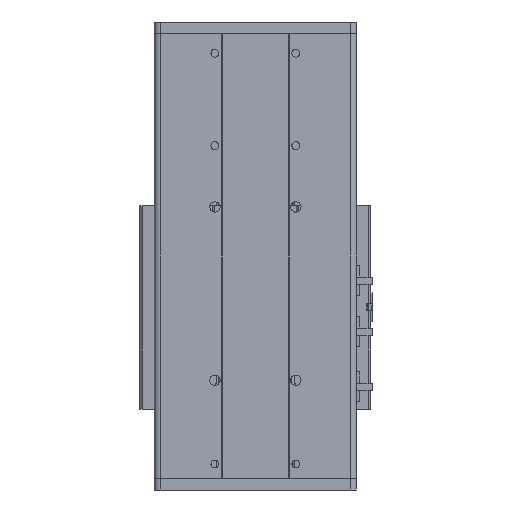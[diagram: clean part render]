
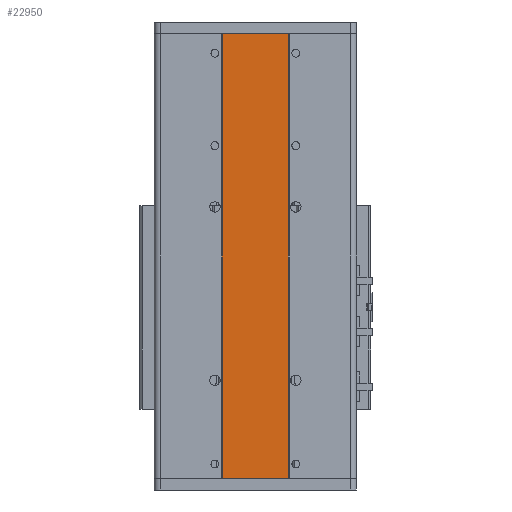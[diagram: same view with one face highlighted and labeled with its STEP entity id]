
A CAD part, front view. The second image highlights one B-rep face of the part: STEP entity #22950.
In plain terms, the highlighted planar face has unit normal (0, -1, 0).
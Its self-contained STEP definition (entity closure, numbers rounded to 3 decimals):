
#1204 = LINE ( 'NONE', #26785, #12729 ) ;
#1414 = DIRECTION ( 'NONE',  ( 0., 1., 0. ) ) ;
#2505 = CARTESIAN_POINT ( 'NONE',  ( 58.27, -85.314, -1495. ) ) ;
#3084 = VERTEX_POINT ( 'NONE', #20923 ) ;
#5481 = ORIENTED_EDGE ( 'NONE', *, *, #9098, .F. ) ;
#7110 = DIRECTION ( 'NONE',  ( 0., 0., 1. ) ) ;
#7407 = VERTEX_POINT ( 'NONE', #16813 ) ;
#9098 = EDGE_CURVE ( 'NONE', #7407, #27570, #24571, .T. ) ;
#9590 = EDGE_CURVE ( 'NONE', #26956, #3084, #1204, .T. ) ;
#10851 = DIRECTION ( 'NONE',  ( -1., 0., 0. ) ) ;
#11060 = DIRECTION ( 'NONE',  ( 0., 0., 1. ) ) ;
#11401 = VECTOR ( 'NONE', #7110, 1000. ) ;
#11476 = CARTESIAN_POINT ( 'NONE',  ( 0., -85.314, 0. ) ) ;
#11748 = ORIENTED_EDGE ( 'NONE', *, *, #9590, .T. ) ;
#12356 = AXIS2_PLACEMENT_3D ( 'NONE', #15184, #1414, #17488 ) ;
#12729 = VECTOR ( 'NONE', #10851, 1000. ) ;
#13070 = VECTOR ( 'NONE', #27523, 1000. ) ;
#13249 = CARTESIAN_POINT ( 'NONE',  ( 1.27, -85.314, -1495. ) ) ;
#13945 = CARTESIAN_POINT ( 'NONE',  ( 58.27, -85.314, 385. ) ) ;
#15184 = CARTESIAN_POINT ( 'NONE',  ( 1.27, -85.314, -1495. ) ) ;
#15303 = ORIENTED_EDGE ( 'NONE', *, *, #23690, .F. ) ;
#16678 = EDGE_LOOP ( 'NONE', ( #24297, #11748, #15303, #5481 ) ) ;
#16813 = CARTESIAN_POINT ( 'NONE',  ( 58.27, -85.314, 0. ) ) ;
#17477 = LINE ( 'NONE', #2505, #11401 ) ;
#17488 = DIRECTION ( 'NONE',  ( 0., 0., 1. ) ) ;
#17781 = EDGE_CURVE ( 'NONE', #7407, #26956, #17477, .T. ) ;
#19337 = LINE ( 'NONE', #13249, #21146 ) ;
#20923 = CARTESIAN_POINT ( 'NONE',  ( 1.27, -85.314, 385. ) ) ;
#21146 = VECTOR ( 'NONE', #11060, 1000. ) ;
#22950 = ADVANCED_FACE ( 'NONE', ( #23296 ), #26619, .F. ) ;
#23296 = FACE_OUTER_BOUND ( 'NONE', #16678, .T. ) ;
#23690 = EDGE_CURVE ( 'NONE', #27570, #3084, #19337, .T. ) ;
#24297 = ORIENTED_EDGE ( 'NONE', *, *, #17781, .T. ) ;
#24571 = LINE ( 'NONE', #11476, #13070 ) ;
#25741 = CARTESIAN_POINT ( 'NONE',  ( 1.27, -85.314, 0. ) ) ;
#26619 = PLANE ( 'NONE',  #12356 ) ;
#26785 = CARTESIAN_POINT ( 'NONE',  ( 1.27, -85.314, 385. ) ) ;
#26956 = VERTEX_POINT ( 'NONE', #13945 ) ;
#27523 = DIRECTION ( 'NONE',  ( -1., 0., 0. ) ) ;
#27570 = VERTEX_POINT ( 'NONE', #25741 ) ;
